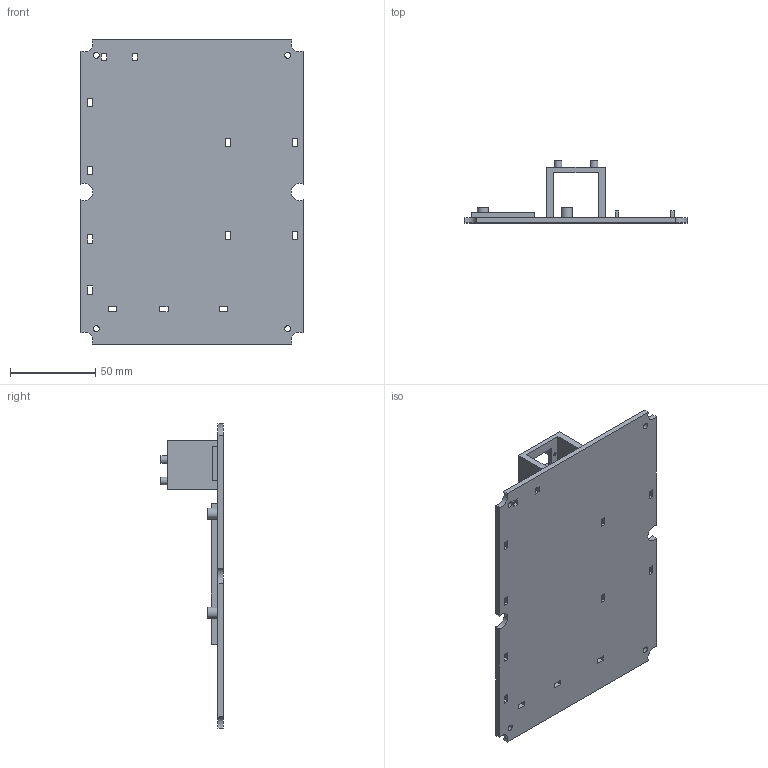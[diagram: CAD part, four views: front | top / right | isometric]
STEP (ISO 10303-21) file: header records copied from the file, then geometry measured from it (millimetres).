
FILE_DESCRIPTION(('Open CASCADE Model'),'2;1');
FILE_NAME('Open CASCADE Shape Model','2026-10-18T06:41:05',('Author'),( 'Open CASCADE'),'Open CASCADE STEP processor 7.9','Open CASCADE 7.9' ,'Unknown');
FILE_SCHEMA(('AUTOMOTIVE_DESIGN { 1 0 10303 214 1 1 1 1 }'));
Length unit declared in the file: millimetre
Products named in the file (1): Open CASCADE STEP translator 7.9 3
Bounding box: 130 x 36.4 x 178 mm (x, y, z)
Volume: 78878.3 mm3; surface area: 55984.2 mm2
Topology: 1 solids, 1 shells, 130 faces, 336 edges, 224 vertices
Faces by surface type: plane 104, cylinder 26
Full cylindrical faces by diameter (mm): 1.8 x4, 3.4 x4, 3.6 x4, 4.5 x4, 6.5 x4
Entity records: 8477 total; most frequent: CARTESIAN_POINT 1513, DIRECTION 1297, LINE 904, VECTOR 904, ORIENTED_EDGE 672, PCURVE 672, DEFINITIONAL_REPRESENTATION 672, EDGE_CURVE 336
